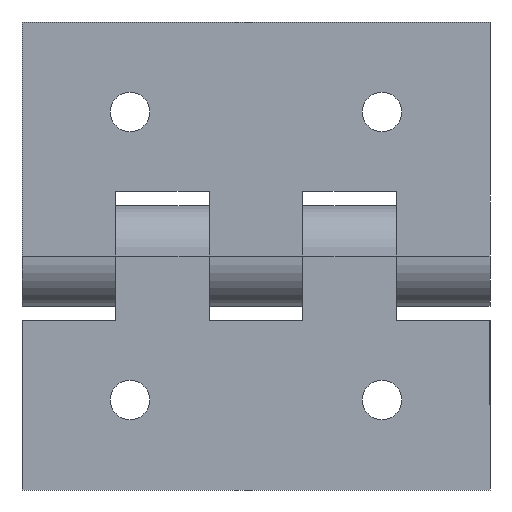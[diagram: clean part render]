
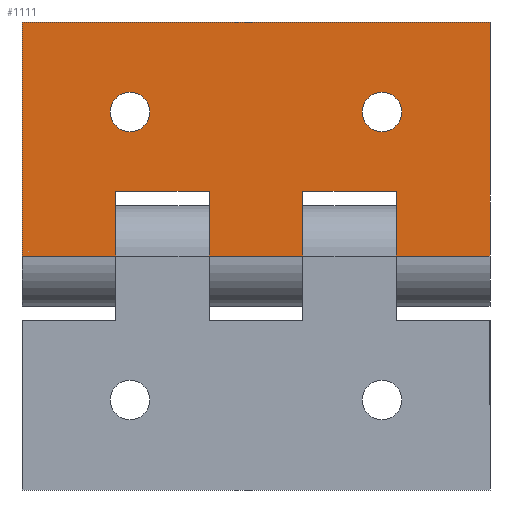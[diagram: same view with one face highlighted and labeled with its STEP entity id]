
A CAD part, front view. The second image highlights one B-rep face of the part: STEP entity #1111.
In plain terms, the highlighted planar face has unit normal (0, -1, 0).
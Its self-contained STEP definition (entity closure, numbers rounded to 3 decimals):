
#25 = CARTESIAN_POINT ( 'NONE',  ( 32.5, 0., 0. ) ) ;
#48 = CARTESIAN_POINT ( 'NONE',  ( -17.5, 0., -20. ) ) ;
#69 = VERTEX_POINT ( 'NONE', #1501 ) ;
#76 = VERTEX_POINT ( 'NONE', #540 ) ;
#83 = FACE_BOUND ( 'NONE', #1747, .T. ) ;
#104 = DIRECTION ( 'NONE',  ( 0., 0., -1. ) ) ;
#108 = DIRECTION ( 'NONE',  ( 0., 0., 1. ) ) ;
#125 = CARTESIAN_POINT ( 'NONE',  ( 32.5, 0., 0. ) ) ;
#133 = AXIS2_PLACEMENT_3D ( 'NONE', #1159, #228, #2338 ) ;
#153 = EDGE_CURVE ( 'NONE', #69, #1908, #1208, .T. ) ;
#162 = EDGE_CURVE ( 'NONE', #76, #1597, #933, .T. ) ;
#227 = LINE ( 'NONE', #25, #735 ) ;
#228 = DIRECTION ( 'NONE',  ( 0., 1., 0. ) ) ;
#248 = CARTESIAN_POINT ( 'NONE',  ( 6.5, 0., -9. ) ) ;
#254 = VERTEX_POINT ( 'NONE', #794 ) ;
#293 = ORIENTED_EDGE ( 'NONE', *, *, #2300, .T. ) ;
#300 = EDGE_LOOP ( 'NONE', ( #1858, #1930 ) ) ;
#305 = VECTOR ( 'NONE', #1524, 1000. ) ;
#306 = CARTESIAN_POINT ( 'NONE',  ( -6.5, 0., -9. ) ) ;
#355 = CARTESIAN_POINT ( 'NONE',  ( 6.5, 0., -9. ) ) ;
#365 = CARTESIAN_POINT ( 'NONE',  ( 6.5, 0., 0. ) ) ;
#377 = CARTESIAN_POINT ( 'NONE',  ( 32.5, 0., 0. ) ) ;
#387 = CARTESIAN_POINT ( 'NONE',  ( 32.5, 0., -32.5 ) ) ;
#421 = VERTEX_POINT ( 'NONE', #1066 ) ;
#432 = ORIENTED_EDGE ( 'NONE', *, *, #2317, .T. ) ;
#442 = ORIENTED_EDGE ( 'NONE', *, *, #885, .T. ) ;
#473 = CARTESIAN_POINT ( 'NONE',  ( -32.5, 0., 0. ) ) ;
#484 = CARTESIAN_POINT ( 'NONE',  ( 32.5, 0., 0. ) ) ;
#503 = CARTESIAN_POINT ( 'NONE',  ( 17.5, 0., -20. ) ) ;
#515 = ORIENTED_EDGE ( 'NONE', *, *, #2105, .T. ) ;
#524 = CARTESIAN_POINT ( 'NONE',  ( 19.5, 0., -9. ) ) ;
#525 = ORIENTED_EDGE ( 'NONE', *, *, #795, .F. ) ;
#540 = CARTESIAN_POINT ( 'NONE',  ( 17.5, 0., -22.75 ) ) ;
#589 = EDGE_CURVE ( 'NONE', #254, #884, #1619, .T. ) ;
#629 = CARTESIAN_POINT ( 'NONE',  ( -6.5, 0., -9. ) ) ;
#660 = PLANE ( 'NONE',  #1946 ) ;
#672 = DIRECTION ( 'NONE',  ( -1., 0., 0. ) ) ;
#695 = DIRECTION ( 'NONE',  ( 0., 1., 0. ) ) ;
#702 = AXIS2_PLACEMENT_3D ( 'NONE', #895, #695, #1857 ) ;
#708 = VECTOR ( 'NONE', #741, 1000. ) ;
#714 = DIRECTION ( 'NONE',  ( -1., 0., 0. ) ) ;
#735 = VECTOR ( 'NONE', #793, 1000. ) ;
#741 = DIRECTION ( 'NONE',  ( 0., 0., -1. ) ) ;
#772 = ORIENTED_EDGE ( 'NONE', *, *, #1681, .T. ) ;
#793 = DIRECTION ( 'NONE',  ( 0., 0., -1. ) ) ;
#794 = CARTESIAN_POINT ( 'NONE',  ( -6.5, 0., 0. ) ) ;
#795 = EDGE_CURVE ( 'NONE', #421, #1630, #227, .T. ) ;
#812 = DIRECTION ( 'NONE',  ( -1., 0., 0. ) ) ;
#858 = CIRCLE ( 'NONE', #1583, 2.75 ) ;
#876 = CARTESIAN_POINT ( 'NONE',  ( 6.5, 0., -9. ) ) ;
#880 = CARTESIAN_POINT ( 'NONE',  ( -17.5, 0., -17.25 ) ) ;
#884 = VERTEX_POINT ( 'NONE', #629 ) ;
#885 = EDGE_CURVE ( 'NONE', #2415, #254, #1185, .T. ) ;
#895 = CARTESIAN_POINT ( 'NONE',  ( -17.5, 0., -20. ) ) ;
#933 = CIRCLE ( 'NONE', #133, 2.75 ) ;
#934 = CARTESIAN_POINT ( 'NONE',  ( 32.5, 0., -32.5 ) ) ;
#987 = VECTOR ( 'NONE', #672, 1000. ) ;
#1009 = VERTEX_POINT ( 'NONE', #1046 ) ;
#1046 = CARTESIAN_POINT ( 'NONE',  ( -32.5, 0., -32.5 ) ) ;
#1066 = CARTESIAN_POINT ( 'NONE',  ( 32.5, 0., 0. ) ) ;
#1111 = ADVANCED_FACE ( 'NONE', ( #83, #1417, #1614 ), #660, .F. ) ;
#1130 = EDGE_CURVE ( 'NONE', #884, #1463, #1509, .T. ) ;
#1136 = VECTOR ( 'NONE', #104, 1000. ) ;
#1154 = ORIENTED_EDGE ( 'NONE', *, *, #2377, .F. ) ;
#1159 = CARTESIAN_POINT ( 'NONE',  ( 17.5, 0., -20. ) ) ;
#1174 = CARTESIAN_POINT ( 'NONE',  ( 17.5, 0., -17.25 ) ) ;
#1176 = AXIS2_PLACEMENT_3D ( 'NONE', #48, #2137, #1523 ) ;
#1185 = LINE ( 'NONE', #2136, #2154 ) ;
#1189 = ORIENTED_EDGE ( 'NONE', *, *, #1855, .T. ) ;
#1206 = LINE ( 'NONE', #1993, #1214 ) ;
#1208 = CIRCLE ( 'NONE', #1176, 2.75 ) ;
#1214 = VECTOR ( 'NONE', #2399, 1000. ) ;
#1316 = CARTESIAN_POINT ( 'NONE',  ( -19.5, 0., -9. ) ) ;
#1323 = EDGE_CURVE ( 'NONE', #1968, #1482, #1206, .T. ) ;
#1417 = FACE_BOUND ( 'NONE', #300, .T. ) ;
#1438 = CARTESIAN_POINT ( 'NONE',  ( -19.5, 0., 0. ) ) ;
#1440 = EDGE_CURVE ( 'NONE', #1597, #76, #858, .T. ) ;
#1463 = VERTEX_POINT ( 'NONE', #1491 ) ;
#1465 = DIRECTION ( 'NONE',  ( -1., 0., 0. ) ) ;
#1482 = VERTEX_POINT ( 'NONE', #524 ) ;
#1485 = EDGE_CURVE ( 'NONE', #1908, #69, #1825, .T. ) ;
#1491 = CARTESIAN_POINT ( 'NONE',  ( -19.5, 0., -9. ) ) ;
#1500 = LINE ( 'NONE', #1686, #708 ) ;
#1501 = CARTESIAN_POINT ( 'NONE',  ( -17.5, 0., -22.75 ) ) ;
#1509 = LINE ( 'NONE', #1316, #2403 ) ;
#1511 = VECTOR ( 'NONE', #714, 1000. ) ;
#1523 = DIRECTION ( 'NONE',  ( 0., 0., 1. ) ) ;
#1524 = DIRECTION ( 'NONE',  ( 0., 0., 1. ) ) ;
#1546 = EDGE_LOOP ( 'NONE', ( #1189, #442, #1873, #1647, #772, #1795, #515, #1154, #525, #293, #1576, #432 ) ) ;
#1576 = ORIENTED_EDGE ( 'NONE', *, *, #1323, .T. ) ;
#1583 = AXIS2_PLACEMENT_3D ( 'NONE', #503, #2272, #108 ) ;
#1588 = VECTOR ( 'NONE', #1808, 1000. ) ;
#1597 = VERTEX_POINT ( 'NONE', #1174 ) ;
#1614 = FACE_OUTER_BOUND ( 'NONE', #1546, .T. ) ;
#1619 = LINE ( 'NONE', #306, #1136 ) ;
#1630 = VERTEX_POINT ( 'NONE', #934 ) ;
#1647 = ORIENTED_EDGE ( 'NONE', *, *, #1130, .T. ) ;
#1672 = VECTOR ( 'NONE', #1465, 1000. ) ;
#1681 = EDGE_CURVE ( 'NONE', #1463, #1926, #1751, .T. ) ;
#1686 = CARTESIAN_POINT ( 'NONE',  ( -32.5, 0., 0. ) ) ;
#1747 = EDGE_LOOP ( 'NONE', ( #2485, #2316 ) ) ;
#1751 = LINE ( 'NONE', #1896, #305 ) ;
#1795 = ORIENTED_EDGE ( 'NONE', *, *, #1932, .T. ) ;
#1808 = DIRECTION ( 'NONE',  ( 0., 0., 1. ) ) ;
#1825 = CIRCLE ( 'NONE', #702, 2.75 ) ;
#1849 = LINE ( 'NONE', #125, #987 ) ;
#1853 = CARTESIAN_POINT ( 'NONE',  ( 19.5, 0., 0. ) ) ;
#1855 = EDGE_CURVE ( 'NONE', #2292, #2415, #1990, .T. ) ;
#1857 = DIRECTION ( 'NONE',  ( 0., 0., 1. ) ) ;
#1858 = ORIENTED_EDGE ( 'NONE', *, *, #1440, .T. ) ;
#1873 = ORIENTED_EDGE ( 'NONE', *, *, #589, .T. ) ;
#1896 = CARTESIAN_POINT ( 'NONE',  ( -19.5, 0., -9. ) ) ;
#1903 = VERTEX_POINT ( 'NONE', #473 ) ;
#1908 = VERTEX_POINT ( 'NONE', #880 ) ;
#1913 = DIRECTION ( 'NONE',  ( 0., 0., 1. ) ) ;
#1926 = VERTEX_POINT ( 'NONE', #1438 ) ;
#1930 = ORIENTED_EDGE ( 'NONE', *, *, #162, .T. ) ;
#1932 = EDGE_CURVE ( 'NONE', #1926, #1903, #2269, .T. ) ;
#1946 = AXIS2_PLACEMENT_3D ( 'NONE', #377, #2484, #1913 ) ;
#1955 = VECTOR ( 'NONE', #2301, 1000. ) ;
#1968 = VERTEX_POINT ( 'NONE', #1853 ) ;
#1990 = LINE ( 'NONE', #248, #1588 ) ;
#1993 = CARTESIAN_POINT ( 'NONE',  ( 19.5, 0., -9. ) ) ;
#2105 = EDGE_CURVE ( 'NONE', #1903, #1009, #1500, .T. ) ;
#2133 = LINE ( 'NONE', #387, #1955 ) ;
#2136 = CARTESIAN_POINT ( 'NONE',  ( 32.5, 0., 0. ) ) ;
#2137 = DIRECTION ( 'NONE',  ( 0., 1., 0. ) ) ;
#2154 = VECTOR ( 'NONE', #812, 1000. ) ;
#2239 = LINE ( 'NONE', #876, #1511 ) ;
#2266 = DIRECTION ( 'NONE',  ( -1., 0., 0. ) ) ;
#2269 = LINE ( 'NONE', #484, #1672 ) ;
#2272 = DIRECTION ( 'NONE',  ( 0., 1., 0. ) ) ;
#2292 = VERTEX_POINT ( 'NONE', #355 ) ;
#2300 = EDGE_CURVE ( 'NONE', #421, #1968, #1849, .T. ) ;
#2301 = DIRECTION ( 'NONE',  ( -1., 0., 0. ) ) ;
#2316 = ORIENTED_EDGE ( 'NONE', *, *, #153, .T. ) ;
#2317 = EDGE_CURVE ( 'NONE', #1482, #2292, #2239, .T. ) ;
#2338 = DIRECTION ( 'NONE',  ( 0., 0., 1. ) ) ;
#2377 = EDGE_CURVE ( 'NONE', #1630, #1009, #2133, .T. ) ;
#2399 = DIRECTION ( 'NONE',  ( 0., 0., -1. ) ) ;
#2403 = VECTOR ( 'NONE', #2266, 1000. ) ;
#2415 = VERTEX_POINT ( 'NONE', #365 ) ;
#2484 = DIRECTION ( 'NONE',  ( 0., 1., 0. ) ) ;
#2485 = ORIENTED_EDGE ( 'NONE', *, *, #1485, .T. ) ;
